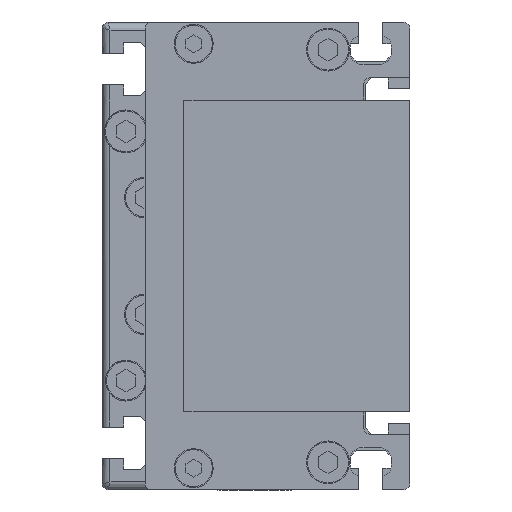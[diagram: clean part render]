
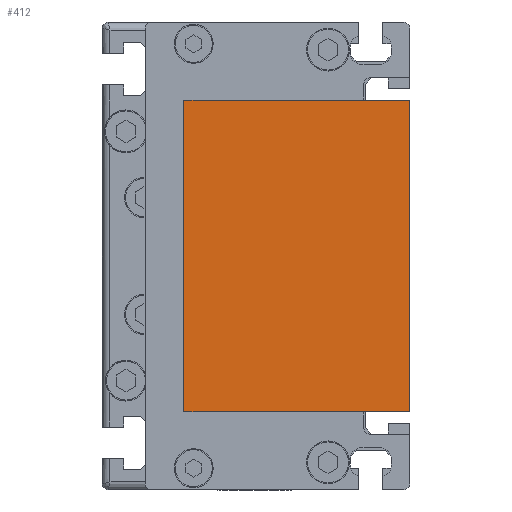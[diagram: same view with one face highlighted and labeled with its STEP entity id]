
A CAD part, left-side view. The second image highlights one B-rep face of the part: STEP entity #412.
In plain terms, the highlighted planar face has unit normal (-1, 0, 0) as drawn and (0, 0, 1) by its records, which use the part's own axes.
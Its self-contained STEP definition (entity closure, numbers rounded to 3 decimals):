
#412 = ADVANCED_FACE ( 'NONE', ( #8964 ), #11414, .F. ) ;
#967 = CARTESIAN_POINT ( 'NONE',  ( 0., 29., 35. ) ) ;
#1336 = DIRECTION ( 'NONE',  ( -1., 0., 0. ) ) ;
#1587 = VECTOR ( 'NONE', #14112, 1000. ) ;
#2069 = EDGE_CURVE ( 'NONE', #3900, #4900, #16240, .T. ) ;
#2158 = ORIENTED_EDGE ( 'NONE', *, *, #14932, .F. ) ;
#2298 = CARTESIAN_POINT ( 'NONE',  ( 0., 58., 35. ) ) ;
#2729 = EDGE_CURVE ( 'NONE', #16619, #4900, #7198, .T. ) ;
#3566 = DIRECTION ( 'NONE',  ( 0., -1., 0. ) ) ;
#3900 = VERTEX_POINT ( 'NONE', #2298 ) ;
#4719 = LINE ( 'NONE', #14784, #11152 ) ;
#4900 = VERTEX_POINT ( 'NONE', #10192 ) ;
#7198 = LINE ( 'NONE', #7704, #13234 ) ;
#7704 = CARTESIAN_POINT ( 'NONE',  ( 80., 0., 35. ) ) ;
#7936 = CARTESIAN_POINT ( 'NONE',  ( 80., 58., 35. ) ) ;
#8939 = ORIENTED_EDGE ( 'NONE', *, *, #2729, .F. ) ;
#8964 = FACE_OUTER_BOUND ( 'NONE', #14221, .T. ) ;
#8976 = CARTESIAN_POINT ( 'NONE',  ( 80., 58., 35. ) ) ;
#9671 = EDGE_CURVE ( 'NONE', #9754, #3900, #11819, .T. ) ;
#9754 = VERTEX_POINT ( 'NONE', #7936 ) ;
#10192 = CARTESIAN_POINT ( 'NONE',  ( 0., 0., 35. ) ) ;
#11152 = VECTOR ( 'NONE', #16092, 1000. ) ;
#11414 = PLANE ( 'NONE',  #13495 ) ;
#11819 = LINE ( 'NONE', #8976, #1587 ) ;
#12823 = VECTOR ( 'NONE', #3566, 1000. ) ;
#13034 = ORIENTED_EDGE ( 'NONE', *, *, #9671, .T. ) ;
#13234 = VECTOR ( 'NONE', #1336, 1000. ) ;
#13495 = AXIS2_PLACEMENT_3D ( 'NONE', #13921, #16506, #16620 ) ;
#13921 = CARTESIAN_POINT ( 'NONE',  ( 80., 29., 35. ) ) ;
#14112 = DIRECTION ( 'NONE',  ( -1., 0., 0. ) ) ;
#14221 = EDGE_LOOP ( 'NONE', ( #15300, #8939, #2158, #13034 ) ) ;
#14665 = CARTESIAN_POINT ( 'NONE',  ( 80., 0., 35. ) ) ;
#14784 = CARTESIAN_POINT ( 'NONE',  ( 80., 29., 35. ) ) ;
#14932 = EDGE_CURVE ( 'NONE', #9754, #16619, #4719, .T. ) ;
#15300 = ORIENTED_EDGE ( 'NONE', *, *, #2069, .T. ) ;
#16092 = DIRECTION ( 'NONE',  ( 0., -1., 0. ) ) ;
#16240 = LINE ( 'NONE', #967, #12823 ) ;
#16506 = DIRECTION ( 'NONE',  ( 0., 0., -1. ) ) ;
#16619 = VERTEX_POINT ( 'NONE', #14665 ) ;
#16620 = DIRECTION ( 'NONE',  ( -1., 0., 0. ) ) ;
